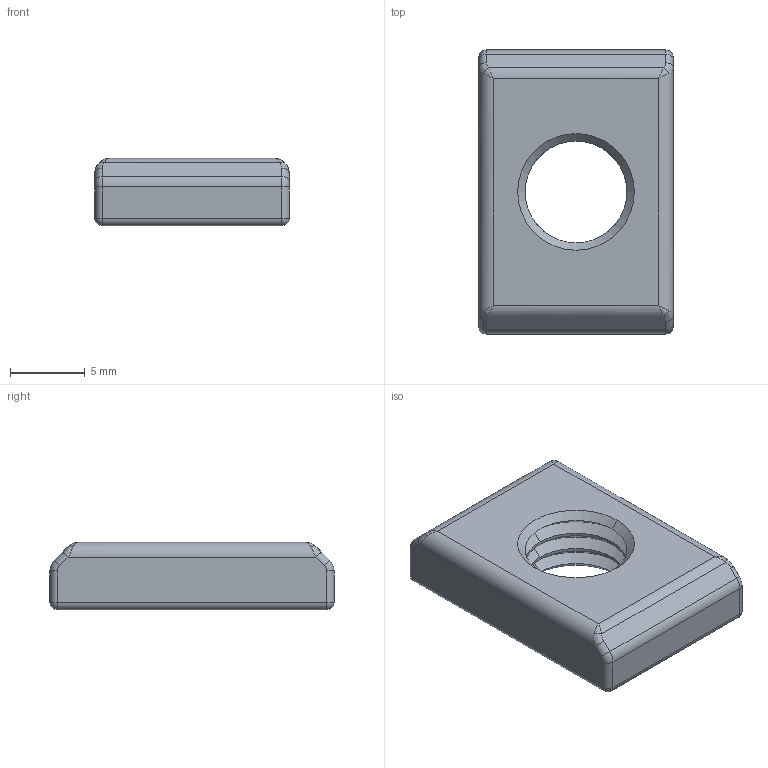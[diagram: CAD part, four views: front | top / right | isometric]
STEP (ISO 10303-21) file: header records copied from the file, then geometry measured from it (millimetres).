
FILE_DESCRIPTION (( 'STEP AP203' ), '1' );
FILE_NAME ('PN08M8.STEP', '2024-02-19T05:51:31', ( '' ), ( '' ), 'SwSTEP 2.0', 'SolidWorks 2022', '' );
FILE_SCHEMA (( 'CONFIG_CONTROL_DESIGN' ));
Length unit declared in the file: millimetre
Products named in the file (1): PN08M8
Bounding box: 13 x 19 x 4.5 mm (x, y, z)
Volume: 879.4 mm3; surface area: 775 mm2
Topology: 1 solids, 1 shells, 62 faces, 150 edges, 82 vertices
Faces by surface type: cylinder 22, cone 16, plane 8, bspline 8, torus 4, sphere 4
Entity records: 1911 total; most frequent: CARTESIAN_POINT 465, DIRECTION 306, ORIENTED_EDGE 284, EDGE_CURVE 142, AXIS2_PLACEMENT_3D 125, VERTEX_POINT 82, CIRCLE 70, EDGE_LOOP 64
